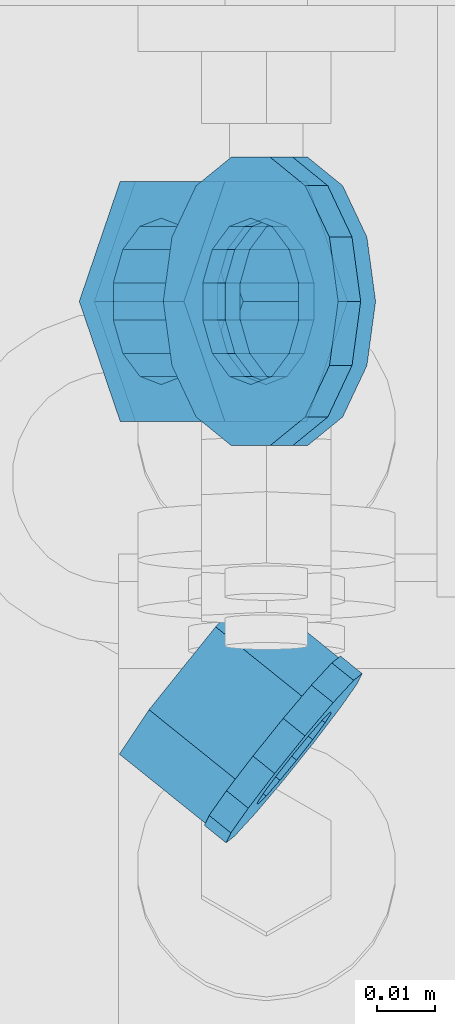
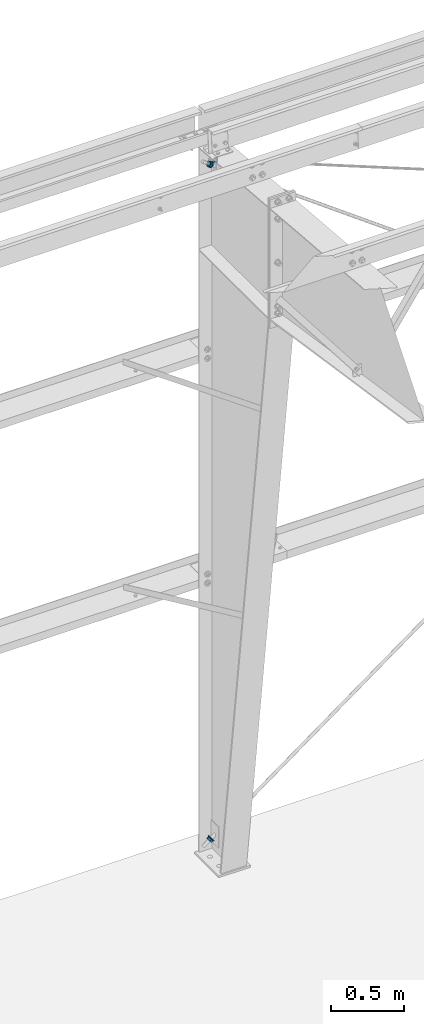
# One storey, part 42 of 185: 4 members, 2 beams, 6 elements without a shape of their own.
"""IFC2X3 building model written with IfcOpenShell, lengths in millimetres."""

import ifcopenshell
import ifcopenshell.guid

model = None  # the IFC model being written
_history = None  # IfcOwnerHistory: only IFC2X3 demands one
_inside = {}  # id of a spatial element -> (the spatial element, [elements in it])
_under = {}  # id of a project, library or spatial element -> (it, [spatial elements below it])
_declared = {}  # id of a project -> (the project, [libraries it declares])
_typed = {}  # id of a type object -> (the type object, [elements of that type])
_made_of = {}  # id of a material, layer set ... -> (it, [elements and type objects made of it])


def new_model(schema):
    """Start an empty IFC model of exactly this schema.

    Asked for "IFC4X3", IfcOpenShell would pick the latest addendum, in which some entities
    have other attributes; the version numbers below select the first issue.
    IFC2X3 requires an IfcOwnerHistory on every rooted entity: one is made here for all.
    """
    global model, _history
    if schema == "IFC4X3":
        model = ifcopenshell.file(schema_version=(4, 3, 0, 0))
    else:
        model = ifcopenshell.file(schema=schema)
    _inside.clear()
    _under.clear()
    _declared.clear()
    _typed.clear()
    _made_of.clear()
    _history = None
    if model.schema == "IFC2X3":
        org = make("IfcOrganization", Name="unknown")
        user = make(
            "IfcPersonAndOrganization",
            ThePerson=make("IfcPerson", FamilyName="unknown"),
            TheOrganization=org,
        )
        app = make(
            "IfcApplication",
            ApplicationDeveloper=org,
            Version="unknown",
            ApplicationFullName="unknown",
            ApplicationIdentifier="unknown",
        )
        _history = make(
            "IfcOwnerHistory",
            OwningUser=user,
            OwningApplication=app,
            ChangeAction="ADDED",
            CreationDate=0,
        )
    return model


def make(cls, **values):
    """One entity of the class cls with the attributes given. An attribute that is None is left unset."""
    return model.create_entity(
        cls, **{name: value for name, value in values.items() if value is not None}
    )


def rooted(cls, **values):
    """An entity with a GlobalId (a new one), such as an element, a storey or a relation."""
    return make(cls, GlobalId=ifcopenshell.guid.new(), OwnerHistory=_history, **values)


def si_unit(unit_type, name, prefix=None):
    """IfcSIUnit, for example si_unit("LENGTHUNIT", "METRE", prefix="MILLI")."""
    return make("IfcSIUnit", UnitType=unit_type, Prefix=prefix, Name=name)


def assignment(units):
    """IfcUnitAssignment: the units of a project."""
    return None if units is None else make("IfcUnitAssignment", Units=units)


def point(xyz):
    """IfcCartesianPoint."""
    return None if xyz is None else make("IfcCartesianPoint", Coordinates=xyz)


def direction(xyz):
    """IfcDirection."""
    return None if xyz is None else make("IfcDirection", DirectionRatios=xyz)


def frame(location, z_axis=None, x_axis=None):
    """IfcAxis2Placement3D, a coordinate frame: its origin and axes. An axis left out is left unset."""
    return make(
        "IfcAxis2Placement3D",
        Location=point(location),
        Axis=direction(z_axis),
        RefDirection=direction(x_axis),
    )


def origin_with_axes():
    """The frame at (0, 0, 0) with the z axis (0, 0, 1) and the x axis (1, 0, 0) written out."""
    return frame((0.0, 0.0, 0.0), z_axis=(0.0, 0.0, 1.0), x_axis=(1.0, 0.0, 0.0))


def place(relative_to, where):
    """IfcLocalPlacement: puts the frame where relative to a parent placement (None: the world)."""
    return make(
        "IfcLocalPlacement", PlacementRelTo=relative_to, RelativePlacement=where
    )


def context(
    kind, dimensions, precision=None, world=None, true_north=None, identifier=None
):
    """IfcGeometricRepresentationContext, for example the 3D "Model" context."""
    return make(
        "IfcGeometricRepresentationContext",
        ContextIdentifier=identifier,
        ContextType=kind,
        CoordinateSpaceDimension=dimensions,
        Precision=precision,
        WorldCoordinateSystem=world,
        TrueNorth=true_north,
    )


def subcontext(parent, identifier, kind, view, scale=None):
    """IfcGeometricRepresentationSubContext, for example "Body" below "Model"."""
    return make(
        "IfcGeometricRepresentationSubContext",
        ContextIdentifier=identifier,
        ContextType=kind,
        ParentContext=parent,
        TargetScale=scale,
        TargetView=view,
    )


def project(units=None, contexts=None):
    """IfcProject with its units and contexts."""
    return rooted(
        "IfcProject",
        Name="project",
        RepresentationContexts=contexts,
        UnitsInContext=assignment(units),
    )


def spatial(cls, under=None, at=None, **own):
    """A site, building, storey or space (cls), placed at a placement, below another one or the project."""
    s = rooted(cls, ObjectPlacement=at, **own)
    if under is not None:
        _under.setdefault(under.id(), (under, []))[1].append(s)
    return s


def polyline(points):
    """IfcPolyline through the points."""
    return make("IfcPolyline", Points=[point(p) for p in points])


def outline(outer, holes=None, kind="AREA"):
    """IfcArbitraryClosedProfileDef: a profile drawn as a closed curve; with holes, ...WithVoids."""
    if holes is None:
        return make("IfcArbitraryClosedProfileDef", ProfileType=kind, OuterCurve=outer)
    return make(
        "IfcArbitraryProfileDefWithVoids",
        ProfileType=kind,
        OuterCurve=outer,
        InnerCurves=holes,
    )


def extrude(swept, where, along, depth):
    """IfcExtrudedAreaSolid: the profile swept, set in the frame where, extruded along a direction by depth."""
    return make(
        "IfcExtrudedAreaSolid",
        SweptArea=swept,
        Position=where,
        ExtrudedDirection=direction(along),
        Depth=depth,
    )


def shape(context_of_items, identifier, shape_type, items):
    """IfcShapeRepresentation: the items that make up one representation, for example the "Body"."""
    return make(
        "IfcShapeRepresentation",
        ContextOfItems=context_of_items,
        RepresentationIdentifier=identifier,
        RepresentationType=shape_type,
        Items=items,
    )


def material(Name=None, Category=None):
    """IfcMaterial."""
    return make("IfcMaterial", Name=Name, Category=Category)


def made_of(thing, what):
    """Note that an element or type object is made of a material, layer set ...; save() writes the relation."""
    if what is not None:
        _made_of.setdefault(what.id(), (what, []))[1].append(thing)
    return thing


def type_object(cls, material=None, **own):
    """A type object (cls), such as IfcWallType, which elements share."""
    return made_of(rooted(cls, **own), material)


def element(
    cls,
    number,
    at=None,
    inside=None,
    cuts=None,
    type_object=None,
    material=None,
    context=None,
    identifier="Body",
    shape_type=None,
    held_by="IfcProductDefinitionShape",
    body=None,
    shapes=None,
    **own,
):
    """One element of the class cls, such as IfcWall. Its Tag is "e" and its number.

    at: its placement. inside: the storey or other place that contains it. cuts: it is an
    opening in that element (IfcRelVoidsElement). A single representation is given by context,
    identifier, shape_type and body (its items); several are given by shapes. held_by: the class
    of the entity that holds the representations. save() writes the other relations.
    """
    e = rooted(cls, Tag="e%d" % number, ObjectPlacement=at, **own)
    if body is not None:
        shapes = [shape(context, identifier, shape_type, body)]
    if shapes is not None:
        e.Representation = make(held_by, Representations=shapes)
    if inside is not None:
        _inside.setdefault(inside.id(), (inside, []))[1].append(e)
    if cuts is not None:
        rooted(
            "IfcRelVoidsElement", RelatingBuildingElement=cuts, RelatedOpeningElement=e
        )
    if type_object is not None:
        _typed.setdefault(type_object.id(), (type_object, []))[1].append(e)
    return made_of(e, material)


def aggregate(whole, parts):
    """IfcRelAggregates: a whole, such as a stair, and the parts it consists of."""
    return rooted("IfcRelAggregates", RelatingObject=whole, RelatedObjects=parts)


def save(model, path):
    """Write the relations noted so far, then the file.

    IfcRelAggregates (storeys below a building ...), IfcRelContainedInSpatialStructure (elements
    in a storey), IfcRelDefinesByType, IfcRelAssociatesMaterial and IfcRelDeclares: one each for
    every whole, place, type object, material and project.
    """
    for whole, parts in _under.values():
        aggregate(whole, parts)
    for where, things in _inside.values():
        rooted(
            "IfcRelContainedInSpatialStructure",
            RelatedElements=things,
            RelatingStructure=where,
        )
    for kind, things in _typed.values():
        rooted("IfcRelDefinesByType", RelatedObjects=things, RelatingType=kind)
    for what, things in _made_of.values():
        rooted("IfcRelAssociatesMaterial", RelatedObjects=things, RelatingMaterial=what)
    for by, libraries in _declared.values():
        rooted("IfcRelDeclares", RelatingContext=by, RelatedDefinitions=libraries)
    model.write(path)


model = new_model("IFC2X3")

# Units and contexts
model_context = context("Model", 3, precision=1e-05, world=origin_with_axes())
body_context = subcontext(model_context, "Body", "Model", "MODEL_VIEW")
ifc_project = project(units=[si_unit("LENGTHUNIT", "METRE", prefix="MILLI"), si_unit("AREAUNIT", "SQUARE_METRE"), si_unit("VOLUMEUNIT", "CUBIC_METRE"), si_unit("MASSUNIT", "GRAM", prefix="KILO"), si_unit("TIMEUNIT", "SECOND"), si_unit("PLANEANGLEUNIT", "RADIAN"), si_unit("SOLIDANGLEUNIT", "STERADIAN"), si_unit("THERMODYNAMICTEMPERATUREUNIT", "DEGREE_CELSIUS"), si_unit("LUMINOUSINTENSITYUNIT", "LUMEN")], contexts=[model_context])

# Site, building, storey
site_placement = place(None, origin_with_axes())
site = spatial("IfcSite", under=ifc_project, at=site_placement, Name="Undefined", CompositionType="ELEMENT")
building_placement = place(site_placement, origin_with_axes())
building = spatial("IfcBuilding", under=site, at=building_placement, Name="Undefined", CompositionType="ELEMENT")
storey_placement = place(building_placement, origin_with_axes())
storey = spatial("IfcBuildingStorey", under=building, at=storey_placement, Name="Undefined", CompositionType="ELEMENT", Elevation=0.0)

# Assembly, member
assembly_1_placement = place(storey_placement, origin_with_axes())
assembly_1 = element("IfcElementAssembly", 1, at=assembly_1_placement, inside=storey, Name="Steel Assembly", AssemblyPlace="NOTDEFINED", PredefinedType="RIGID_FRAME")
ifc_material = material(Name="STEEL/55")
member_type_1 = type_object("IfcMemberType", Name="1_HEAVY_HEX_NUT", PredefinedType="NOTDEFINED")
member_1_placement = place(assembly_1_placement, frame((30060.7770348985, 31742.1260000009, 140.133583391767), z_axis=(-8.18690000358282e-05, -0.999999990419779, 0.000111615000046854), x_axis=(-0.806747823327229, 0.0, -0.590895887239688)))
member_1 = element("IfcMember", 2, at=member_1_placement, type_object=member_type_1, material=ifc_material, Name="1 H HEX NUT A563", ObjectType="1_HEAVY_HEX_NUT", context=body_context, shape_type="SweptSolid", body=[
    extrude(outline(polyline([(-11.909999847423, 20.620000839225), (11.9099998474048, 20.6200008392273), (23.8099994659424, -4.9453774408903e-12), (11.9099998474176, -20.6200008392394), (-11.9099998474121, -20.6200008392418), (-23.8099994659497, -9.49285094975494e-12), (-11.909999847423, 20.620000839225)]), holes=[polyline([(11.1723718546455, -8.90966924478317), (13.9317198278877, -3.17982413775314), (13.9317198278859, 3.17982413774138), (11.17237185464, 8.9096692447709), (6.20019861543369, 12.8748450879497), (-5.45696821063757e-12, 14.2899999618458), (-6.20019861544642, 12.8748450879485), (-11.1723718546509, 8.90966924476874), (-13.931719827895, 3.17982413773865), (-13.9317198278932, -3.17982413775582), (-11.1723718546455, -8.90966924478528), (-6.20019861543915, -12.8748450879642), (0.0, -14.2899999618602), (6.20019861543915, -12.874845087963), (11.1723718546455, -8.90966924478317)])]), frame((19.0500000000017, 0.0, 2.58175642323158e-19), z_axis=(-1.0, 0.0, 0.0), x_axis=(0.0, -1.0, 0.0)), (0.0, 0.0, 1.0), 19.1),
])
aggregate(assembly_1, [member_1])

assembly_2_placement = place(storey_placement, origin_with_axes())
assembly_2 = element("IfcElementAssembly", 3, at=assembly_2_placement, inside=storey, Name="Steel Assembly", AssemblyPlace="NOTDEFINED", PredefinedType="RIGID_FRAME")
member_2_placement = place(assembly_2_placement, frame((30058.2156114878, 31742.1260000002, 5779.49958722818), z_axis=(-8.17930000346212e-05, 0.999999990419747, -0.000111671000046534), x_axis=(-0.806747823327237, 0.0, 0.590895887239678)))
member_2 = element("IfcMember", 4, at=member_2_placement, type_object=member_type_1, material=ifc_material, Name="1 H HEX NUT A563", ObjectType="1_HEAVY_HEX_NUT", context=body_context, shape_type="SweptSolid", body=[
    extrude(outline(polyline([(-11.909999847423, 20.620000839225), (11.9099998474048, 20.6200008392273), (23.8099994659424, -4.9453774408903e-12), (11.9099998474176, -20.6200008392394), (-11.9099998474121, -20.6200008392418), (-23.8099994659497, -9.49285094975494e-12), (-11.909999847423, 20.620000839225)]), holes=[polyline([(11.1723718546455, -8.90966924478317), (13.9317198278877, -3.17982413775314), (13.9317198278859, 3.17982413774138), (11.17237185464, 8.9096692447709), (6.20019861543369, 12.8748450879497), (-5.45696821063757e-12, 14.2899999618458), (-6.20019861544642, 12.8748450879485), (-11.1723718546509, 8.90966924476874), (-13.931719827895, 3.17982413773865), (-13.9317198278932, -3.17982413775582), (-11.1723718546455, -8.90966924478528), (-6.20019861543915, -12.8748450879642), (0.0, -14.2899999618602), (6.20019861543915, -12.874845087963), (11.1723718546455, -8.90966924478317)])]), frame((19.0500000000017, 0.0, 2.58175642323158e-19), z_axis=(-1.0, 0.0, 0.0), x_axis=(0.0, -1.0, 0.0)), (0.0, 0.0, 1.0), 19.1),
])
aggregate(assembly_2, [member_2])

assembly_3_placement = place(storey_placement, origin_with_axes())
assembly_3 = element("IfcElementAssembly", 5, at=assembly_3_placement, inside=storey, Name="Steel Assembly", AssemblyPlace="NOTDEFINED", PredefinedType="RIGID_FRAME")
member_type_2 = type_object("IfcMemberType", Name="1_WASHER", PredefinedType="NOTDEFINED")
member_3_placement = place(assembly_3_placement, frame((30064.6191714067, 31742.1260000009, 142.947725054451), z_axis=(-8.18690000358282e-05, -0.999999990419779, 0.000111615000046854), x_axis=(-0.806747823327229, 0.0, -0.590895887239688)))
member_3 = element("IfcMember", 6, at=member_3_placement, type_object=member_type_2, material=ifc_material, Name="1 WASHER F844", ObjectType="1_WASHER", context=body_context, shape_type="SweptSolid", body=[
    extrude(outline(polyline([(15.8366407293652, 19.8585193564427), (22.8846089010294, 11.020646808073), (25.3999996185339, 6.25277607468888e-13), (22.8846089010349, -11.0206468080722), (15.8366407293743, -19.8585193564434), (5.6520316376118, -24.7631685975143), (-5.65203163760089, -24.7631685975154), (-15.8366407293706, -19.8585193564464), (-22.8846089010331, -11.0206468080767), (-25.3999996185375, -4.32009983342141e-12), (-22.8846089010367, 11.0206468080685), (-15.8366407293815, 19.8585193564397), (-5.65203163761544, 24.7631685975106), (5.65203163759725, 24.7631685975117), (15.8366407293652, 19.8585193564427)]), holes=[polyline([(11.1723718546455, -8.90966924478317), (13.9317198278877, -3.17982413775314), (13.9317198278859, 3.17982413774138), (11.17237185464, 8.9096692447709), (6.20019861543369, 12.8748450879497), (-5.45696821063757e-12, 14.2899999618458), (-6.20019861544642, 12.8748450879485), (-11.1723718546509, 8.90966924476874), (-13.931719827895, 3.17982413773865), (-13.9317198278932, -3.17982413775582), (-11.1723718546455, -8.90966924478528), (-6.20019861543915, -12.8748450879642), (0.0, -14.2899999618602), (6.20019861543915, -12.874845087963), (11.1723718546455, -8.90966924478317)])]), frame((4.76250000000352, 2.6437185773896e-16, 5.6843418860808e-14), z_axis=(-1.0, 0.0, 0.0), x_axis=(0.0, -1.0, 0.0)), (0.0, 0.0, 1.0), 4.8),
])
aggregate(assembly_3, [member_3])

assembly_4_placement = place(storey_placement, origin_with_axes())
assembly_4 = element("IfcElementAssembly", 7, at=assembly_4_placement, inside=storey, Name="Steel Assembly", AssemblyPlace="NOTDEFINED", PredefinedType="RIGID_FRAME")
member_4_placement = place(assembly_4_placement, frame((30062.0577479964, 31742.1260000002, 5776.68544556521), z_axis=(-8.17930000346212e-05, 0.999999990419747, -0.000111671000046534), x_axis=(-0.806747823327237, 0.0, 0.590895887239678)))
member_4 = element("IfcMember", 8, at=member_4_placement, type_object=member_type_2, material=ifc_material, Name="1 WASHER F844", ObjectType="1_WASHER", context=body_context, shape_type="SweptSolid", body=[
    extrude(outline(polyline([(15.8366407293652, 19.8585193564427), (22.8846089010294, 11.020646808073), (25.3999996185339, 6.25277607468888e-13), (22.8846089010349, -11.0206468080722), (15.8366407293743, -19.8585193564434), (5.6520316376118, -24.7631685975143), (-5.65203163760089, -24.7631685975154), (-15.8366407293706, -19.8585193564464), (-22.8846089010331, -11.0206468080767), (-25.3999996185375, -4.32009983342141e-12), (-22.8846089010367, 11.0206468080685), (-15.8366407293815, 19.8585193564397), (-5.65203163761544, 24.7631685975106), (5.65203163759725, 24.7631685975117), (15.8366407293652, 19.8585193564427)]), holes=[polyline([(11.1723718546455, -8.90966924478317), (13.9317198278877, -3.17982413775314), (13.9317198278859, 3.17982413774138), (11.17237185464, 8.9096692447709), (6.20019861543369, 12.8748450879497), (-5.45696821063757e-12, 14.2899999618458), (-6.20019861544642, 12.8748450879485), (-11.1723718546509, 8.90966924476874), (-13.931719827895, 3.17982413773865), (-13.9317198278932, -3.17982413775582), (-11.1723718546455, -8.90966924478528), (-6.20019861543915, -12.8748450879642), (0.0, -14.2899999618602), (6.20019861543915, -12.874845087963), (11.1723718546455, -8.90966924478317)])]), frame((4.76250000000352, 2.6437185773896e-16, 5.6843418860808e-14), z_axis=(-1.0, 0.0, 0.0), x_axis=(0.0, -1.0, 0.0)), (0.0, 0.0, 1.0), 4.8),
])
aggregate(assembly_4, [member_4])

# Assembly, beam
assembly_5_placement = place(storey_placement, origin_with_axes())
assembly_5 = element("IfcElementAssembly", 9, at=assembly_5_placement, inside=storey, Name="Steel Assembly", AssemblyPlace="NOTDEFINED", PredefinedType="RIGID_FRAME")
beam_type_1 = type_object("IfcBeamType", Name="3/4_HEAVY_HEX_NUT", PredefinedType="NOTDEFINED")
beam_1_placement = place(assembly_5_placement, frame((30061.9358115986, 31666.6891512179, 5861.2510649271), z_axis=(0.0404404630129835, -0.0329265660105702, -0.99863927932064), x_axis=(-0.778250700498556, 0.62578459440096, -0.0521487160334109)))
beam_1 = element("IfcBeam", 10, at=beam_1_placement, type_object=beam_type_1, material=ifc_material, Name="3/4 H HEX NUT A563", ObjectType="3/4_HEAVY_HEX_NUT", context=body_context, shape_type="SweptSolid", body=[
    extrude(outline(polyline([(9.13000011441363, -15.810000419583), (-9.13000011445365, -15.810000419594), (-18.2600002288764, 1.54614099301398e-11), (-9.13000011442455, 15.8100004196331), (9.13000011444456, 15.8100004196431), (18.2600002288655, 3.36513039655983e-11), (9.13000011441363, -15.810000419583)]), holes=[polyline([(-8.06850066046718, 6.43441456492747), (-10.061255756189, 2.29641597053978), (-10.0612557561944, -2.29641597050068), (-8.06850066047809, -6.43441456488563), (-4.47768005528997, -9.29799844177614), (-1.09139364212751e-11, -10.3199996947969), (4.47768005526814, -9.29799844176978), (8.0685006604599, -6.43441456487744), (10.0612557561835, -2.29641597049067), (10.0612557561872, 2.2964159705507), (8.06850066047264, 6.43441456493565), (4.47768005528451, 9.29799844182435), (7.27595761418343e-12, 10.319999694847), (-4.47768005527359, 9.2979984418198), (-8.06850066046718, 6.43441456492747)])]), frame((19.0500000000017, 0.0, 2.58175642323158e-19), z_axis=(-1.0, 0.0, 0.0), x_axis=(0.0, -1.0, 0.0)), (0.0, 0.0, 1.0), 19.1),
])
aggregate(assembly_5, [beam_1])

assembly_6_placement = place(storey_placement, origin_with_axes())
assembly_6 = element("IfcElementAssembly", 11, at=assembly_6_placement, inside=storey, Name="Steel Assembly", AssemblyPlace="NOTDEFINED", PredefinedType="RIGID_FRAME")
beam_type_2 = type_object("IfcBeamType", Name="3/4_WASHER", PredefinedType="NOTDEFINED")
beam_2_placement = place(assembly_6_placement, frame((30065.6422305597, 31663.7088520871, 5861.49942318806), z_axis=(0.0404404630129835, -0.0329265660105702, -0.99863927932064), x_axis=(-0.778250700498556, 0.62578459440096, -0.0521487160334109)))
beam_2 = element("IfcBeam", 12, at=beam_2_placement, type_object=beam_type_2, material=ifc_material, Name="3/4 WASHER F844", ObjectType="3/4_WASHER", context=body_context, shape_type="SweptSolid", body=[
    extrude(outline(polyline([(-11.6280845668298, -14.5811568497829), (-16.8030690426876, -8.09193156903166), (-18.649999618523, -4.54747350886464e-12), (-16.8030690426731, 8.09193156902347), (-11.6280845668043, 14.5811568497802), (-4.15001533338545, 18.1824051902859), (4.15001533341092, 18.1824051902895), (11.628084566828, 14.5811568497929), (16.8030690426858, 8.09193156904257), (18.6499996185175, 1.45519152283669e-11), (16.8030690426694, -8.09193156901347), (11.6280845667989, -14.5811568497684), (4.15001533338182, -18.182405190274), (-4.15001533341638, -18.1824051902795), (-11.6280845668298, -14.5811568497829)]), holes=[polyline([(-8.06850066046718, 6.43441456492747), (-10.061255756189, 2.29641597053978), (-10.0612557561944, -2.29641597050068), (-8.06850066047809, -6.43441456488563), (-4.47768005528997, -9.29799844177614), (-1.09139364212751e-11, -10.3199996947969), (4.47768005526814, -9.29799844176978), (8.0685006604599, -6.43441456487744), (10.0612557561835, -2.29641597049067), (10.0612557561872, 2.2964159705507), (8.06850066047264, 6.43441456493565), (4.47768005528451, 9.29799844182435), (7.27595761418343e-12, 10.319999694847), (-4.47768005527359, 9.2979984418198), (-8.06850066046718, 6.43441456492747)])]), frame((4.76250000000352, 2.6437185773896e-16, 5.6843418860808e-14), z_axis=(-1.0, 0.0, 0.0), x_axis=(0.0, -1.0, 0.0)), (0.0, 0.0, 1.0), 4.8),
])
aggregate(assembly_6, [beam_2])

save(model, "model.ifc")
